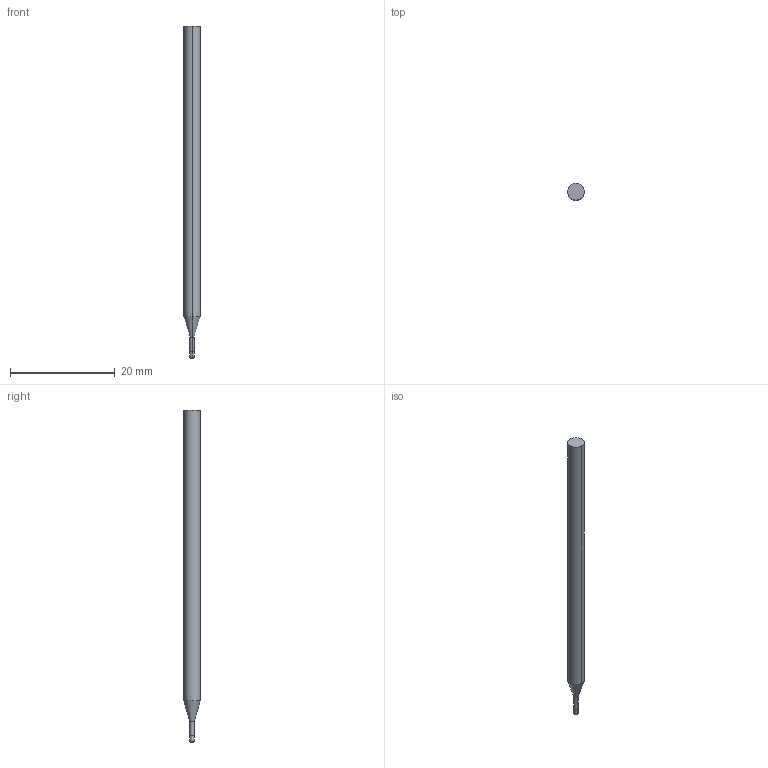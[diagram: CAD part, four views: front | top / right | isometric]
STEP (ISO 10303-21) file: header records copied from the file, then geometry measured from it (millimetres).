
FILE_DESCRIPTION((' '),'2;1');
FILE_NAME( '3MVS0312R.005N5AH.stp', '2026-01-21T19:06:56', (' '), ('--- Datakit www.datakit.com---'), ' Datakit CrossCadWare V2025.4 Sep 19 2025', 'Mastercam 2027', ' ');
FILE_SCHEMA(('AUTOMOTIVE_DESIGN { 1 0 10303 214 1 1 1 1 }'));
Length unit declared in the file: inch
Products named in the file (1): 3MVS0312R
Bounding box: 3.17 x 3.17 x 63.5 mm (x, y, z)
Volume: 456 mm3; surface area: 598.5 mm2
Topology: 1 solids, 1 shells, 12 faces, 22 edges, 12 vertices
Faces by surface type: cylinder 6, plane 2, torus 2, cone 2
Entity records: 377 total; most frequent: DIRECTION 70, CARTESIAN_POINT 51, ORIENTED_EDGE 44, AXIS2_PLACEMENT_3D 31, EDGE_CURVE 22, CIRCLE 14, VERTEX_POINT 12, EDGE_LOOP 12
